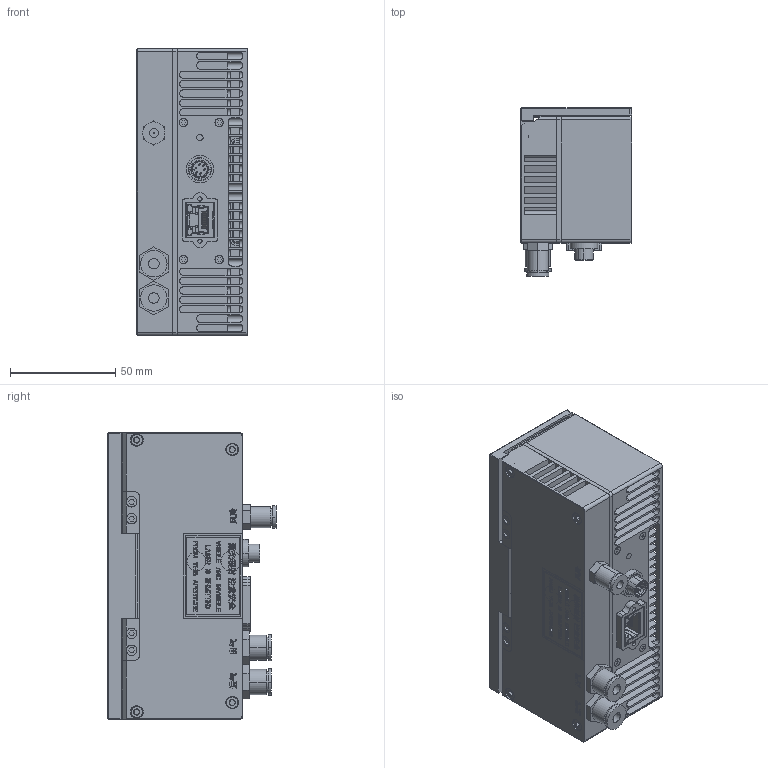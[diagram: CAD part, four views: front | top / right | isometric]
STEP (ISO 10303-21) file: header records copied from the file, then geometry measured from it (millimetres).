
FILE_DESCRIPTION((''),'2;1');
FILE_NAME('ASM0001_ASM_ASM','2023-02-07T',('qqwan'),(''),'PRO/ENGINEER BY PARAMETRIC TECHNOLOGY CORPORATION, 2010280','PRO/ENGINEER BY PARAMETRIC TECHNOLOGY CORPORATION, 2010280','');
FILE_SCHEMA(('CONFIG_CONTROL_DESIGN'));
Products named in the file (53): 22_9_1; PRT0001; PRT0002; PRT0003; PRT0004; PRT0005; ASM0002_ASM_3_ASM_ASM_ASM_ASM; PRT0006; CUJB6-10DM_0_0__ASM_3_ASM_ASM_A_ASM; PRT0007; PRT0008; PRT0009; PRT0004_6_ASM_ASM_ASM_ASM; PRT0010; PRT0011; PRT0012; PRT0013; PRT0014; PRT0016; PRT0017; PRT0018; PRT0019; PRT0020; PRT0021; PRT0022; PRT0023; PRT0024; PRT0025; PRT0026; PRT0027; PRT0028; PRT0029; PRT0030; PRT0031; PRT0032; PRT0033; PRT0034; PRT0035; PRT0036; PRT0037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
Assembly tree (65 placements, depth 8):
  ASM0001_ASM_ASM
    ASM0001_ASM
      PDN-0700_3D__ASM_ASM_ASM
        ASM0001_ASM_ASM_ASM_ASM_ASM
          ASM0001_ASM_164_ASM_ASM_ASM_ASM
            22_9_1
            PRT0001
            PRT0002
            CUJB6-10DM_0_0__ASM_3_ASM_ASM_A_ASM
              ASM0002_ASM_3_ASM_ASM_ASM_ASM
                PRT0003
                PRT0004
                PRT0005
              PRT0006  x2
            PRT0007
            PRT0004_6_ASM_ASM_ASM_ASM
              PRT0008
              PRT0009
            PRT0010  x2
            PRT0011  x2
            PRT0012
            PRT0013
            PRT0014
            PRT0016  x4
            PRT0017  x4
            PRT0018  x4
            PRT0019  x2
            ASM0002_ASM_ASM
              ASM0003_ASM_1_ASM_ASM_ASM_ASM
                PRT0020
                PRT0021
                PRT0022
                PRT0023
                PRT0024
                PRT0025
                PRT0026
                PRT0027
                PRT0028
                PRT0029
                PRT0030
                PRT0031
                PRT0032
                PRT0033
                PRT0034
                PRT0035
                PRT0036
                PRT0037
                PRT0038
                PRT0039
            PRT0040
            PRT0041
            PRT0042
    ADMI78E4C120GMK0-203285
Bounding box: 52.8 x 79.75 x 135.95 mm (x, y, z)
Volume: 217870.4 mm3; surface area: 177082.6 mm2
Topology: 55 solids, 67 shells, 4230 faces, 11815 edges, 7854 vertices
Faces by surface type: plane 2707, cylinder 827, extrusion 419, cone 183, torus 68, bspline 26
Entity records: 137766 total; most frequent: CARTESIAN_POINT 31435, ORIENTED_EDGE 22674, DIRECTION 20516, EDGE_CURVE 11360, VECTOR 8450, LINE 8031, VERTEX_POINT 7576, AXIS2_PLACEMENT_3D 6033
